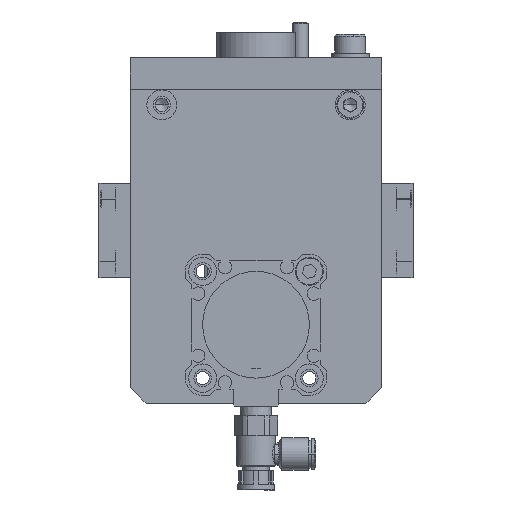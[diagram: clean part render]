
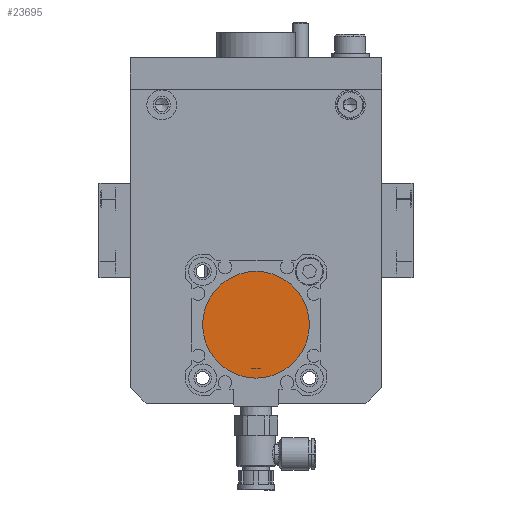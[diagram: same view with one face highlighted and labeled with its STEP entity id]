
A CAD part, left-side view. The second image highlights one B-rep face of the part: STEP entity #23695.
In plain terms, the highlighted planar face has unit normal (-1, 0, 0) as drawn and (1, 0, 0) by its records, which use the part's own axes.
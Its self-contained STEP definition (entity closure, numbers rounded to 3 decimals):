
#2067 = CARTESIAN_POINT ( 'NONE',  ( 81., 0., 0. ) ) ;
#3677 = ORIENTED_EDGE ( 'NONE', *, *, #7573, .T. ) ;
#5359 = PLANE ( 'NONE',  #33196 ) ;
#6715 = DIRECTION ( 'NONE',  ( 1., 0., 0. ) ) ;
#6747 = EDGE_CURVE ( 'NONE', #32094, #36210, #30671, .T. ) ;
#7573 = EDGE_CURVE ( 'NONE', #36210, #32094, #22843, .T. ) ;
#13243 = CARTESIAN_POINT ( 'NONE',  ( 81., 0., 17. ) ) ;
#13686 = DIRECTION ( 'NONE',  ( 1., 0., 0. ) ) ;
#14313 = CARTESIAN_POINT ( 'NONE',  ( 81., 0., 0. ) ) ;
#15678 = EDGE_LOOP ( 'NONE', ( #28575, #3677 ) ) ;
#16698 = DIRECTION ( 'NONE',  ( 0., 0., -1. ) ) ;
#17733 = AXIS2_PLACEMENT_3D ( 'NONE', #31817, #13686, #16698 ) ;
#18427 = DIRECTION ( 'NONE',  ( 0., 0., -1. ) ) ;
#22656 = FACE_OUTER_BOUND ( 'NONE', #15678, .T. ) ;
#22843 = CIRCLE ( 'NONE', #17733, 17. ) ;
#23695 = ADVANCED_FACE ( 'NONE', ( #22656 ), #5359, .T. ) ;
#28575 = ORIENTED_EDGE ( 'NONE', *, *, #6747, .T. ) ;
#29583 = DIRECTION ( 'NONE',  ( 1., 0., 0. ) ) ;
#30671 = CIRCLE ( 'NONE', #37776, 17. ) ;
#31817 = CARTESIAN_POINT ( 'NONE',  ( 81., 0., 0. ) ) ;
#32094 = VERTEX_POINT ( 'NONE', #35037 ) ;
#33196 = AXIS2_PLACEMENT_3D ( 'NONE', #14313, #29583, #38346 ) ;
#35037 = CARTESIAN_POINT ( 'NONE',  ( 81., 0., -17. ) ) ;
#36210 = VERTEX_POINT ( 'NONE', #13243 ) ;
#37776 = AXIS2_PLACEMENT_3D ( 'NONE', #2067, #6715, #18427 ) ;
#38346 = DIRECTION ( 'NONE',  ( 0., 0., -1. ) ) ;
